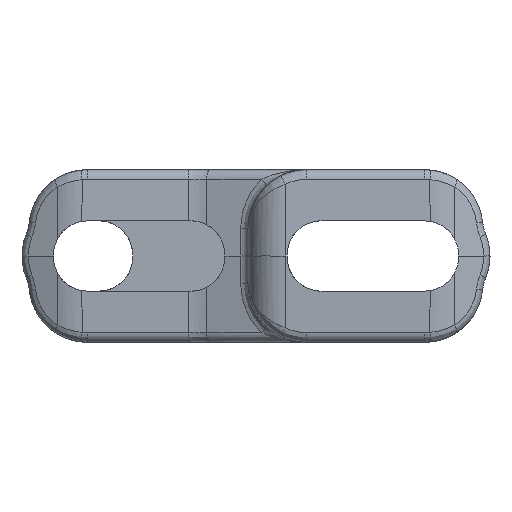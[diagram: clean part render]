
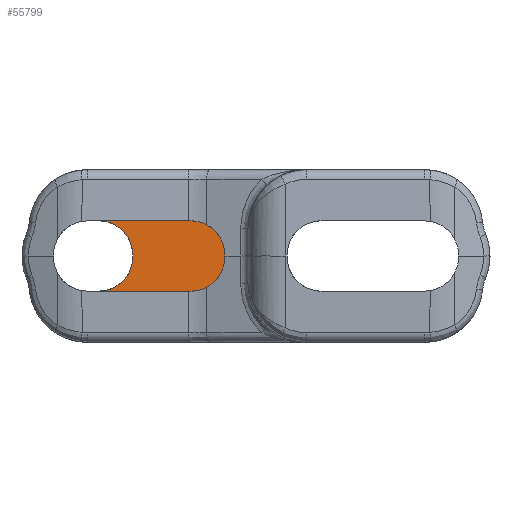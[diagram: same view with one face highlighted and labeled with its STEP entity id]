
A CAD part, left-side view. The second image highlights one B-rep face of the part: STEP entity #55799.
In plain terms, the highlighted planar face has unit normal (-1, 0, 0).
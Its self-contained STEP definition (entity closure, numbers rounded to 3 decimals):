
#16235=CARTESIAN_POINT('',(34.574,11.85,
-0.1));
#16236=DIRECTION('',(-1.,0.,0.));
#16237=DIRECTION('',(0.,0.,-1.));
#16238=AXIS2_PLACEMENT_3D('',#16235,#16236,#16237);
#16240=DIRECTION('',(0.,0.,1.));
#16241=VECTOR('',#16240,0.2);
#16242=CARTESIAN_POINT('',(34.574,9.3,
-0.1));
#16243=LINE('',#16242,#16241);
#16244=CARTESIAN_POINT('',(34.574,11.85,
0.1));
#16245=DIRECTION('',(-1.,0.,0.));
#16246=DIRECTION('',(0.,-1.,0.));
#16247=AXIS2_PLACEMENT_3D('',#16244,#16245,#16246);
#16249=DIRECTION('',(0.,-1.,0.));
#16250=VECTOR('',#16249,6.95);
#16251=CARTESIAN_POINT('',(34.574,11.85,2.65));
#16252=LINE('',#16251,#16250);
#16253=CARTESIAN_POINT('',(34.574,4.9,
0.1));
#16254=DIRECTION('',(1.,0.,0.));
#16255=DIRECTION('',(0.,0.,1.));
#16256=AXIS2_PLACEMENT_3D('',#16253,#16254,#16255);
#16258=DIRECTION('',(0.,0.,-1.));
#16259=VECTOR('',#16258,0.2);
#16260=CARTESIAN_POINT('',(34.574,2.35,
0.1));
#16261=LINE('',#16260,#16259);
#16262=CARTESIAN_POINT('',(34.574,4.9,
-0.1));
#16263=DIRECTION('',(1.,0.,0.));
#16264=DIRECTION('',(0.,-1.,0.));
#16265=AXIS2_PLACEMENT_3D('',#16262,#16263,#16264);
#16267=DIRECTION('',(0.,1.,0.));
#16268=VECTOR('',#16267,6.95);
#16269=CARTESIAN_POINT('',(34.574,4.9,
-2.65));
#16270=LINE('',#16269,#16268);
#27498=CARTESIAN_POINT('',(34.574,2.35,
-0.1));
#27499=CARTESIAN_POINT('',(34.574,4.9,
-2.65));
#27500=VERTEX_POINT('',#27498);
#27501=VERTEX_POINT('',#27499);
#27502=CARTESIAN_POINT('',(34.574,4.9,2.65));
#27503=CARTESIAN_POINT('',(34.574,2.35,
0.1));
#27504=VERTEX_POINT('',#27502);
#27505=VERTEX_POINT('',#27503);
#28190=CARTESIAN_POINT('',(34.574,11.85,
-2.65));
#28191=CARTESIAN_POINT('',(34.574,9.3,
-0.1));
#28192=VERTEX_POINT('',#28190);
#28193=VERTEX_POINT('',#28191);
#28194=CARTESIAN_POINT('',(34.574,9.3,
0.1));
#28195=VERTEX_POINT('',#28194);
#28196=CARTESIAN_POINT('',(34.574,11.85,2.65));
#28197=VERTEX_POINT('',#28196);
#55783=CARTESIAN_POINT('',(34.574,0.,0.));
#55784=DIRECTION('',(1.,0.,0.));
#55785=DIRECTION('',(0.,-1.,0.));
#55786=AXIS2_PLACEMENT_3D('',#55783,#55784,#55785);
#55787=PLANE('',#55786);
#55788=ORIENTED_EDGE('',*,*,#55774,.T.);
#55789=ORIENTED_EDGE('',*,*,#55416,.T.);
#55791=ORIENTED_EDGE('',*,*,#55790,.T.);
#55792=ORIENTED_EDGE('',*,*,#32117,.T.);
#55793=ORIENTED_EDGE('',*,*,#31201,.T.);
#55794=ORIENTED_EDGE('',*,*,#31024,.T.);
#55795=ORIENTED_EDGE('',*,*,#30900,.T.);
#55796=ORIENTED_EDGE('',*,*,#31403,.T.);
#55797=EDGE_LOOP('',(#55788,#55789,#55791,#55792,#55793,#55794,#55795,#55796));
#55798=FACE_OUTER_BOUND('',#55797,.F.);
#55799=ADVANCED_FACE('',(#55798),#55787,.F.);
#16239=CIRCLE('',#16238,2.55);
#16248=CIRCLE('',#16247,2.55);
#16257=CIRCLE('',#16256,2.55);
#16266=CIRCLE('',#16265,2.55);
#30900=EDGE_CURVE('',#27500,#27501,#16266,.T.);
#31024=EDGE_CURVE('',#27505,#27500,#16261,.T.);
#31201=EDGE_CURVE('',#27504,#27505,#16257,.T.);
#31403=EDGE_CURVE('',#27501,#28192,#16270,.T.);
#32117=EDGE_CURVE('',#28197,#27504,#16252,.T.);
#55416=EDGE_CURVE('',#28193,#28195,#16243,.T.);
#55774=EDGE_CURVE('',#28192,#28193,#16239,.T.);
#55790=EDGE_CURVE('',#28195,#28197,#16248,.T.);
